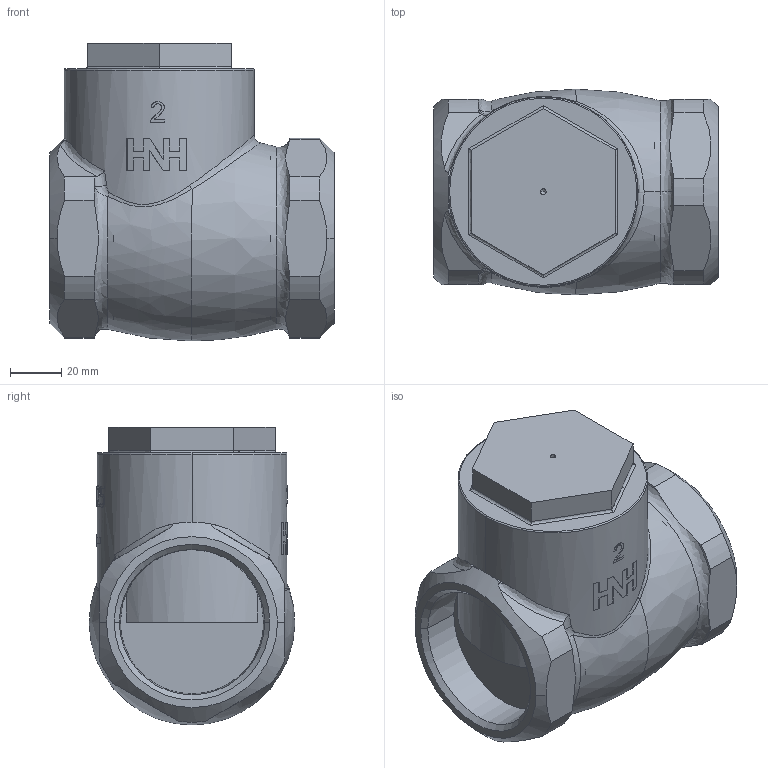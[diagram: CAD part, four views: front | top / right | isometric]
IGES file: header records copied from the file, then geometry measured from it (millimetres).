
Global section: file name: No Iges File Name specified; native system: AutoDesk Inventor R12.0; preprocessor: AutoDesk Inventor Iges Exporter R12.0; date: 20110303.142752; units: millimetre
Bounding box: 110.5 x 79.98 x 115.9 mm (x, y, z)
Volume: 502290.7 mm3; surface area: 65112.8 mm2
Topology: 1 solids, 2 shells, 253 faces, 661 edges, 434 vertices
Faces by surface type: plane 113, bspline 70, revolution 27, cylinder 25, cone 16, torus 2
